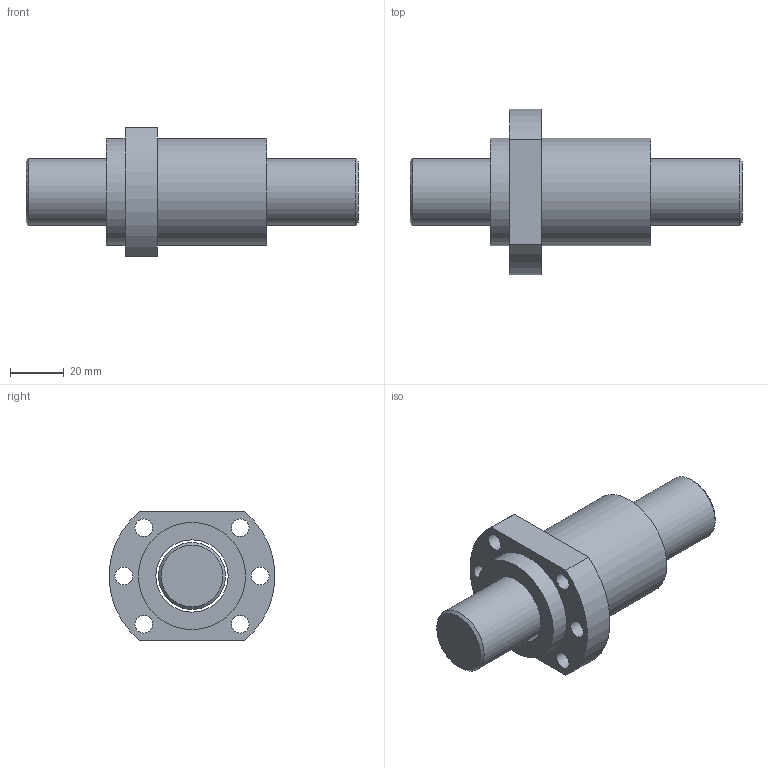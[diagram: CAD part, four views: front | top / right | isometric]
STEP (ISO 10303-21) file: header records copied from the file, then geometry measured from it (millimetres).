
FILE_DESCRIPTION(/* description */ (''),/* implementation_level */ '2;1');
FILE_NAME(/* name */ 'SFA2525-1.8.stp',/* time_stamp */ '2019-04-01T16:15:56+08:00',/* author */ (''),/* organization */ (''),/* preprocessor_version */ 'ST-DEVELOPER v14',/* originating_system */ 'SIEMENS PLM Software NX 8.0',/* authorisation */ '');
FILE_SCHEMA (('AP203_CONFIGURATION_CONTROLLED_3D_DESIGN_OF_MECHANICAL_PARTS_AND_ASSEMBLIES_MIM_LF { 1 0 10303 403 2 1 2}'));
Length unit declared in the file: millimetre
Products named in the file (1): 00250F9064919b89
Bounding box: 124 x 61.8 x 48 mm (x, y, z)
Volume: 116017.6 mm3; surface area: 29231.2 mm2
Topology: 2 solids, 2 shells, 22 faces, 49 edges, 33 vertices
Faces by surface type: cylinder 12, plane 8, cone 2
Full cylindrical faces by diameter (mm): 6.6 x6, 25 x1, 27 x1, 40 x2
Entity records: 658 total; most frequent: DIRECTION 106, CARTESIAN_POINT 87, ORIENTED_EDGE 68, EDGE_LOOP 50, AXIS2_PLACEMENT_3D 49, FACE_BOUND 44, EDGE_CURVE 34, VERTEX_POINT 30
